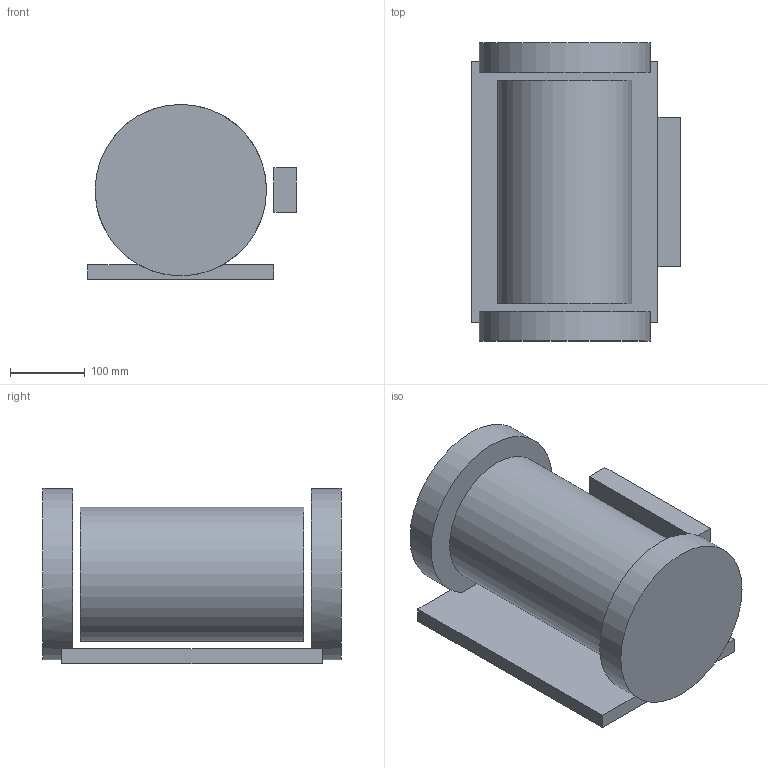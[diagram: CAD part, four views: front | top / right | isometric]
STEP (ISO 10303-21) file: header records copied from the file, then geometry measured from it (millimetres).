
FILE_DESCRIPTION(/* description */ (''),/* implementation_level */ '2;1');
FILE_NAME(/* name */ 'winch.step',/* time_stamp */ '2026-11-14T21:13:14+01:00',/* author */ ('malgo'),/* organization */ (''),/* preprocessor_version */ 'ST-DEVELOPER v20.1',/* originating_system */ 'Autodesk Inventor 2026',/* authorisation */ '');
FILE_SCHEMA (('AUTOMOTIVE_DESIGN { 1 0 10303 214 3 1 1 }'));
Length unit declared in the file: metre
Products named in the file (1): winch
Bounding box: 280 x 400 x 235 mm (x, y, z)
Volume: 13033330.9 mm3; surface area: 671558.4 mm2
Topology: 3 solids, 3 shells, 21 faces, 45 edges, 30 vertices
Faces by surface type: plane 18, cylinder 3
Full cylindrical faces by diameter (mm): 180 x1, 230 x2
Entity records: 604 total; most frequent: DIRECTION 99, CARTESIAN_POINT 97, ORIENTED_EDGE 90, EDGE_CURVE 45, LINE 35, VECTOR 35, AXIS2_PLACEMENT_3D 32, VERTEX_POINT 30
